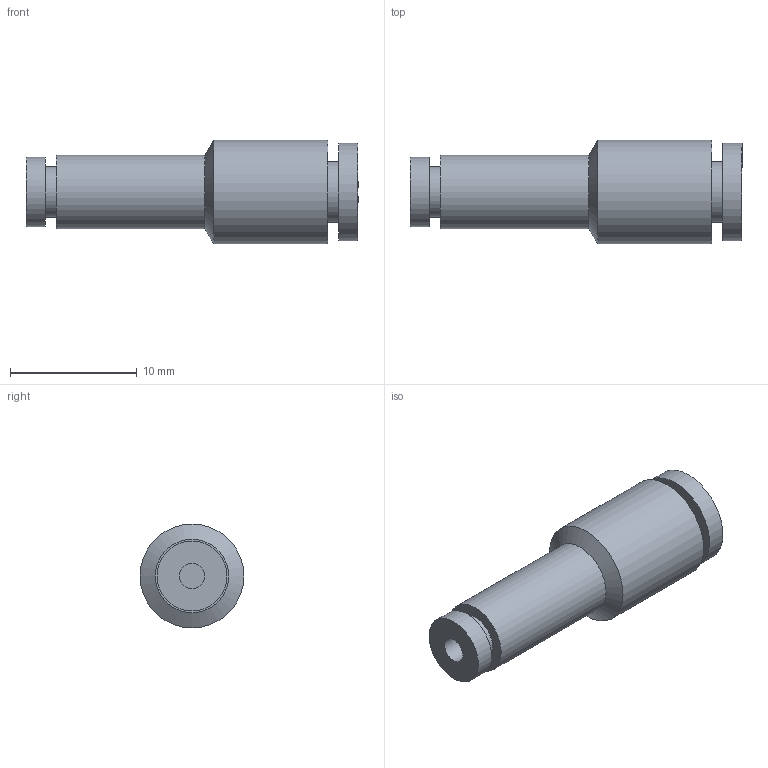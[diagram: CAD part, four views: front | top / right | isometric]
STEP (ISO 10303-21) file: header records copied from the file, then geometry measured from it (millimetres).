
FILE_DESCRIPTION(/* description */ ('STEP AP214'),/* implementation_level */ '2;1');
FILE_NAME(/* name */ 'KQ2H02-04A',/* time_stamp */ '2023-03-09T07:22:21+01:00',/* author */ ('License CC BY-ND 4.0'),/* organization */ ('CADENAS'),/* preprocessor_version */ 'ST-DEVELOPER v18.102',/* originating_system */ 'PARTsolutions',/* authorisation */ ' ');
FILE_SCHEMA (('AUTOMOTIVE_DESIGN {1 0 10303 214 3 1 1}'));
Length unit declared in the file: millimetre
Products named in the file (1): KQ2H02-04A
Bounding box: 26.2 x 8.2 x 8.2 mm (x, y, z)
Volume: 739.8 mm3; surface area: 963.7 mm2
Topology: 1 solids, 1 shells, 17 faces, 25 edges, 16 vertices
Faces by surface type: plane 8, cylinder 8, cone 1
Full cylindrical faces by diameter (mm): 2 x1, 3.95 x1, 4 x1, 4.8 x1, 5.5 x1, 5.8 x1, 7.7 x1, 8.2 x1
Entity records: 364 total; most frequent: DIRECTION 68, CARTESIAN_POINT 50, AXIS2_PLACEMENT_3D 34, ORIENTED_EDGE 32, EDGE_LOOP 32, FACE_BOUND 32, ADVANCED_FACE 17, EDGE_CURVE 16
